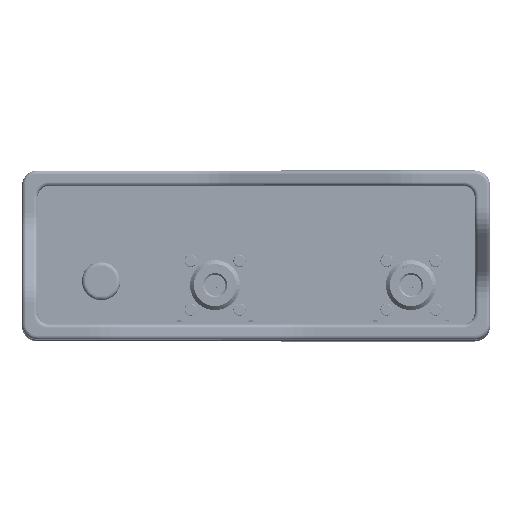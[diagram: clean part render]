
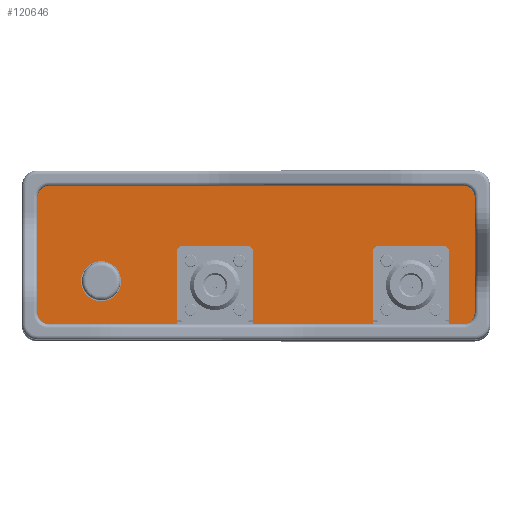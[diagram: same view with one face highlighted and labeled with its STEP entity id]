
A CAD part, top view. The second image highlights one B-rep face of the part: STEP entity #120646.
In plain terms, the highlighted planar face has unit normal (0, 0, 1).
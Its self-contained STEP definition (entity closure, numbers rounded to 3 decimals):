
#3475=PLANE('',#144989);
#11398=CIRCLE('',#144990,2.6);
#11399=CIRCLE('',#144991,1.5);
#11400=CIRCLE('',#144992,1.5);
#11401=CIRCLE('',#144993,1.5);
#40474=ORIENTED_EDGE('',*,*,#55516,.T.);
#40475=ORIENTED_EDGE('',*,*,#55517,.F.);
#40476=ORIENTED_EDGE('',*,*,#55515,.F.);
#40477=ORIENTED_EDGE('',*,*,#55518,.F.);
#40478=ORIENTED_EDGE('',*,*,#55519,.T.);
#40479=ORIENTED_EDGE('',*,*,#55520,.F.);
#40480=ORIENTED_EDGE('',*,*,#55521,.T.);
#40481=ORIENTED_EDGE('',*,*,#55522,.F.);
#40482=ORIENTED_EDGE('',*,*,#55523,.F.);
#40483=ORIENTED_EDGE('',*,*,#55524,.T.);
#40484=ORIENTED_EDGE('',*,*,#55525,.T.);
#40485=ORIENTED_EDGE('',*,*,#55526,.T.);
#40486=ORIENTED_EDGE('',*,*,#55527,.T.);
#40487=ORIENTED_EDGE('',*,*,#55528,.F.);
#40488=ORIENTED_EDGE('',*,*,#55529,.T.);
#40489=ORIENTED_EDGE('',*,*,#55530,.F.);
#40490=ORIENTED_EDGE('',*,*,#55531,.F.);
#40491=ORIENTED_EDGE('',*,*,#55532,.T.);
#40492=ORIENTED_EDGE('',*,*,#55533,.F.);
#40493=ORIENTED_EDGE('',*,*,#55534,.T.);
#55515=EDGE_CURVE('',#67350,#67348,#72875,.T.);
#55516=EDGE_CURVE('',#67351,#67351,#11398,.T.);
#55517=EDGE_CURVE('',#67348,#67352,#72876,.T.);
#55518=EDGE_CURVE('',#67353,#67350,#72877,.T.);
#55519=EDGE_CURVE('',#67353,#67354,#72878,.F.);
#55520=EDGE_CURVE('',#67355,#67354,#72879,.T.);
#55521=EDGE_CURVE('',#67355,#67356,#72880,.F.);
#55522=EDGE_CURVE('',#67357,#67356,#72881,.T.);
#55523=EDGE_CURVE('',#67358,#67357,#72882,.T.);
#55524=EDGE_CURVE('',#67358,#67359,#11399,.F.);
#55525=EDGE_CURVE('',#67359,#67360,#72883,.T.);
#55526=EDGE_CURVE('',#67360,#67361,#11400,.F.);
#55527=EDGE_CURVE('',#67361,#67362,#72884,.T.);
#55528=EDGE_CURVE('',#67363,#67362,#11401,.T.);
#55529=EDGE_CURVE('',#67363,#67364,#72885,.T.);
#55530=EDGE_CURVE('',#67365,#67364,#72886,.T.);
#55531=EDGE_CURVE('',#67366,#67365,#72887,.T.);
#55532=EDGE_CURVE('',#67366,#67367,#72888,.F.);
#55533=EDGE_CURVE('',#67368,#67367,#72889,.T.);
#55534=EDGE_CURVE('',#67368,#67352,#72890,.F.);
#67348=VERTEX_POINT('',#215351);
#67350=VERTEX_POINT('',#215355);
#67351=VERTEX_POINT('',#215359);
#67352=VERTEX_POINT('',#215361);
#67353=VERTEX_POINT('',#215363);
#67354=VERTEX_POINT('',#215365);
#67355=VERTEX_POINT('',#215367);
#67356=VERTEX_POINT('',#215369);
#67357=VERTEX_POINT('',#215371);
#67358=VERTEX_POINT('',#215373);
#67359=VERTEX_POINT('',#215375);
#67360=VERTEX_POINT('',#215377);
#67361=VERTEX_POINT('',#215379);
#67362=VERTEX_POINT('',#215381);
#67363=VERTEX_POINT('',#215383);
#67364=VERTEX_POINT('',#215385);
#67365=VERTEX_POINT('',#215387);
#67366=VERTEX_POINT('',#215389);
#67367=VERTEX_POINT('',#215391);
#67368=VERTEX_POINT('',#215393);
#72875=LINE('',#215356,#78175);
#72876=LINE('',#215360,#78176);
#72877=LINE('',#215362,#78177);
#72878=LINE('',#215364,#78178);
#72879=LINE('',#215366,#78179);
#72880=LINE('',#215368,#78180);
#72881=LINE('',#215370,#78181);
#72882=LINE('',#215372,#78182);
#72883=LINE('',#215376,#78183);
#72884=LINE('',#215380,#78184);
#72885=LINE('',#215384,#78185);
#72886=LINE('',#215386,#78186);
#72887=LINE('',#215388,#78187);
#72888=LINE('',#215390,#78188);
#72889=LINE('',#215392,#78189);
#72890=LINE('',#215394,#78190);
#78175=VECTOR('',#178460,1000.);
#78176=VECTOR('',#178465,1000.);
#78177=VECTOR('',#178466,1000.);
#78178=VECTOR('',#178467,1000.);
#78179=VECTOR('',#178468,1000.);
#78180=VECTOR('',#178469,1000.);
#78181=VECTOR('',#178470,1000.);
#78182=VECTOR('',#178471,1000.);
#78183=VECTOR('',#178474,1000.);
#78184=VECTOR('',#178477,1000.);
#78185=VECTOR('',#178480,1000.);
#78186=VECTOR('',#178481,1000.);
#78187=VECTOR('',#178482,1000.);
#78188=VECTOR('',#178483,1000.);
#78189=VECTOR('',#178484,1000.);
#78190=VECTOR('',#178485,1000.);
#93854=EDGE_LOOP('',(#40474));
#93855=EDGE_LOOP('',(#40475,#40476,#40477,#40478,#40479,#40480,#40481,#40482,
#40483,#40484,#40485,#40486,#40487,#40488,#40489,#40490,#40491,#40492,#40493));
#109983=FACE_BOUND('',#93854,.T.);
#109984=FACE_BOUND('',#93855,.T.);
#120646=ADVANCED_FACE('',(#109983,#109984),#3475,.F.);
#144989=AXIS2_PLACEMENT_3D('',#215357,#178461,#178462);
#144990=AXIS2_PLACEMENT_3D('',#215358,#178463,#178464);
#144991=AXIS2_PLACEMENT_3D('',#215374,#178472,#178473);
#144992=AXIS2_PLACEMENT_3D('',#215378,#178475,#178476);
#144993=AXIS2_PLACEMENT_3D('',#215382,#178478,#178479);
#178460=DIRECTION('',(-1.,0.,0.));
#178461=DIRECTION('',(0.,0.,-1.));
#178462=DIRECTION('',(-1.,0.,0.));
#178463=DIRECTION('',(0.,0.,-1.));
#178464=DIRECTION('',(-1.,0.,0.));
#178465=DIRECTION('',(0.,1.,0.));
#178466=DIRECTION('',(0.,-1.,0.));
#178467=DIRECTION('',(-0.707,-0.707,0.));
#178468=DIRECTION('',(-1.,0.,0.));
#178469=DIRECTION('',(-0.707,0.707,0.));
#178470=DIRECTION('',(0.,1.,0.));
#178471=DIRECTION('',(-1.,0.,0.));
#178472=DIRECTION('',(0.,0.,-1.));
#178473=DIRECTION('',(-1.,0.,0.));
#178474=DIRECTION('',(0.,1.,0.));
#178475=DIRECTION('',(0.,0.,-1.));
#178476=DIRECTION('',(-1.,0.,0.));
#178477=DIRECTION('',(-1.,0.,0.));
#178478=DIRECTION('',(0.,0.,-1.));
#178479=DIRECTION('',(-1.,0.,0.));
#178480=DIRECTION('',(0.,-1.,0.));
#178481=DIRECTION('',(-1.,0.,0.));
#178482=DIRECTION('',(0.,-1.,0.));
#178483=DIRECTION('',(-0.707,-0.707,0.));
#178484=DIRECTION('',(-1.,0.,0.));
#178485=DIRECTION('',(-0.707,0.707,0.));
#215351=CARTESIAN_POINT('',(-0.323,-17.306,1.));
#215355=CARTESIAN_POINT('',(15.177,-17.306,1.));
#215356=CARTESIAN_POINT('',(35.58,-17.306,1.));
#215357=CARTESIAN_POINT('',(0.,0.,1.));
#215358=CARTESIAN_POINT('',(-20.148,-11.6,1.));
#215359=CARTESIAN_POINT('',(-22.748,-11.6,1.));
#215360=CARTESIAN_POINT('',(-0.323,-17.306,1.));
#215361=CARTESIAN_POINT('',(-0.323,-7.556,1.));
#215362=CARTESIAN_POINT('',(15.177,-7.056,1.));
#215363=CARTESIAN_POINT('',(15.177,-7.556,1.));
#215364=CARTESIAN_POINT('',(11.366,-11.366,1.));
#215365=CARTESIAN_POINT('',(15.677,-7.056,1.));
#215366=CARTESIAN_POINT('',(25.177,-7.056,1.));
#215367=CARTESIAN_POINT('',(24.677,-7.056,1.));
#215368=CARTESIAN_POINT('',(8.811,8.811,1.));
#215369=CARTESIAN_POINT('',(25.177,-7.556,1.));
#215370=CARTESIAN_POINT('',(25.177,-17.306,1.));
#215371=CARTESIAN_POINT('',(25.177,-17.306,1.));
#215372=CARTESIAN_POINT('',(35.58,-17.306,1.));
#215373=CARTESIAN_POINT('',(26.957,-17.306,1.));
#215374=CARTESIAN_POINT('',(26.957,-15.806,1.));
#215375=CARTESIAN_POINT('',(28.457,-15.806,1.));
#215376=CARTESIAN_POINT('',(28.457,-24.752,1.));
#215377=CARTESIAN_POINT('',(28.457,-0.706,1.));
#215378=CARTESIAN_POINT('',(26.957,-0.706,1.));
#215379=CARTESIAN_POINT('',(26.957,0.794,1.));
#215380=CARTESIAN_POINT('',(32.757,0.794,1.));
#215381=CARTESIAN_POINT('',(-26.943,0.794,1.));
#215382=CARTESIAN_POINT('',(-26.943,-0.706,1.));
#215383=CARTESIAN_POINT('',(-28.443,-0.706,1.));
#215384=CARTESIAN_POINT('',(-28.443,-21.706,1.));
#215385=CARTESIAN_POINT('',(-28.443,-17.306,1.));
#215386=CARTESIAN_POINT('',(35.58,-17.306,1.));
#215387=CARTESIAN_POINT('',(-10.323,-17.306,1.));
#215388=CARTESIAN_POINT('',(-10.323,-7.056,1.));
#215389=CARTESIAN_POINT('',(-10.323,-7.556,1.));
#215390=CARTESIAN_POINT('',(-1.384,1.384,1.));
#215391=CARTESIAN_POINT('',(-9.823,-7.056,1.));
#215392=CARTESIAN_POINT('',(-0.323,-7.056,1.));
#215393=CARTESIAN_POINT('',(-0.823,-7.056,1.));
#215394=CARTESIAN_POINT('',(-3.939,-3.939,1.));
